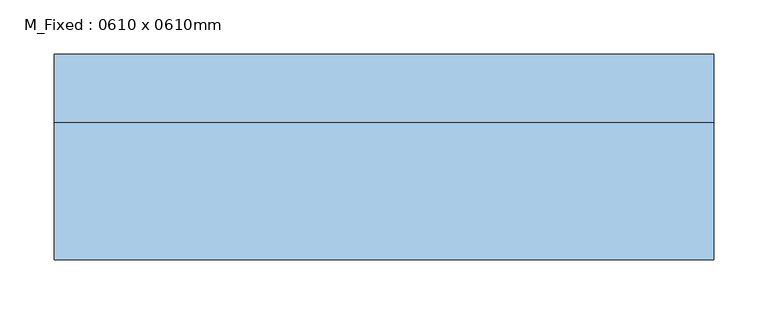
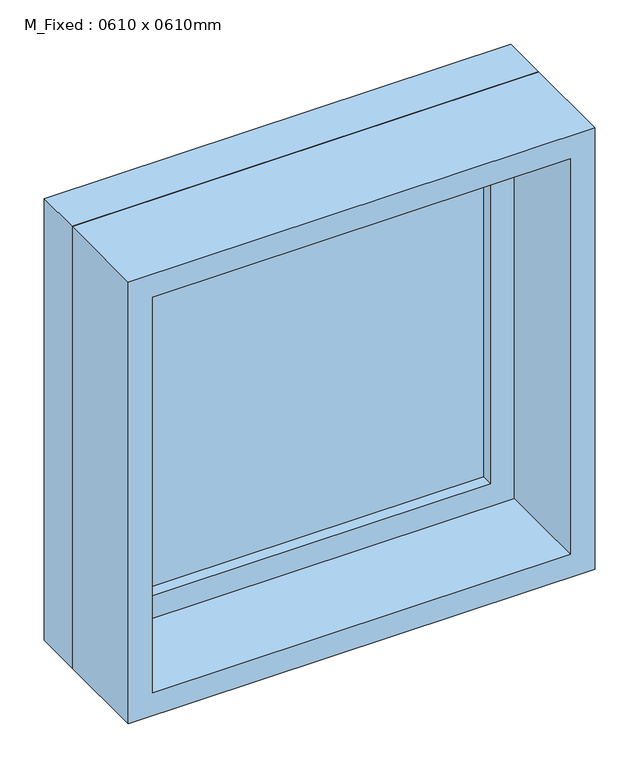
"""IFC4 building model written with IfcOpenShell, lengths in millimetres: window geometry, M_Fixed : 0610 x 0610mm."""

from ifc_helpers import new_model, si_unit, frame, origin, place, context, project, spatial, polyline, outline, extrude, source, transform, mapped, element, save


def m_fixed_0610_x_0610mm_09852ef8(model_context):
    return source(origin(), model_context, "Body", "SweptSolid", [
        extrude(outline(polyline([(-242.0, 73.0), (242.0, 73.0), (242.0, 61.0), (-242.0, 61.0), (-242.0, 73.0)])), frame((0.0, 0.0, 978.0), z_axis=(0.0, 0.0, 1.0), x_axis=(1.0, 0.0, 0.0)), (0.0, 0.0, 1.0), 484.0),
        extrude(outline(polyline([(1506.0, -286.0), (934.0, -286.0), (934.0, 286.0), (1506.0, 286.0), (1506.0, -286.0)]), holes=[polyline([(1462.0, -242.0), (1462.0, 242.0), (978.0, 242.0), (978.0, -242.0), (1462.0, -242.0)])]), frame((0.0, 45.0, 0.0), z_axis=(0.0, 1.0, 0.0), x_axis=(0.0, 0.0, 1.0)), (0.0, 0.0, 1.0), 44.0),
        extrude(outline(polyline([(1525.0, -305.0), (915.0, -305.0), (915.0, 305.0), (1525.0, 305.0), (1525.0, -305.0)]), holes=[polyline([(1506.0, -286.0), (1506.0, 286.0), (934.0, 286.0), (934.0, -286.0), (1506.0, -286.0)])]), frame((0.0, 45.0, 0.0), z_axis=(0.0, 1.0, 0.0), x_axis=(0.0, 0.0, 1.0)), (0.0, 0.0, 1.0), 63.0),
        extrude(outline(polyline([(1525.0, -305.0), (915.0, -305.0), (915.0, 305.0), (1525.0, 305.0), (1525.0, -305.0)]), holes=[polyline([(1493.0, -273.0), (1493.0, 273.0), (947.0, 273.0), (947.0, -273.0), (1493.0, -273.0)])]), frame((0.0, -82.0, 0.0), z_axis=(0.0, 1.0, 0.0), x_axis=(0.0, 0.0, 1.0)), (0.0, 0.0, 1.0), 127.0),
    ])


if __name__ == "__main__":
    model = new_model("IFC4")
    model_context = context("Model", 3, world=origin())
    ifc_project = project(units=[si_unit("LENGTHUNIT", "METRE", prefix="MILLI")], contexts=[model_context])
    site = spatial("IfcSite", under=ifc_project)
    building = spatial("IfcBuilding", under=site)
    placement = place(None, origin())
    m_fixed_0610_x_0610mm_shape = m_fixed_0610_x_0610mm_09852ef8(model_context)
    element("IfcWindow", 1, ObjectType="M_Fixed : 0610 x 0610mm", at=placement, inside=building, context=model_context, shape_type="MappedRepresentation", body=[
        mapped(m_fixed_0610_x_0610mm_shape, transform((0.0, 0.0, 0.0), x_axis=(1.0, 0.0, 0.0), y_axis=(0.0, 1.0, 0.0), z_axis=(0.0, 0.0, 1.0))),
    ])
    save(model, "model.ifc")
